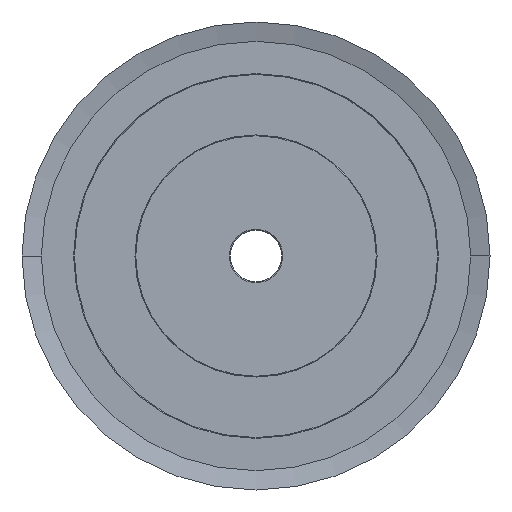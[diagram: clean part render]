
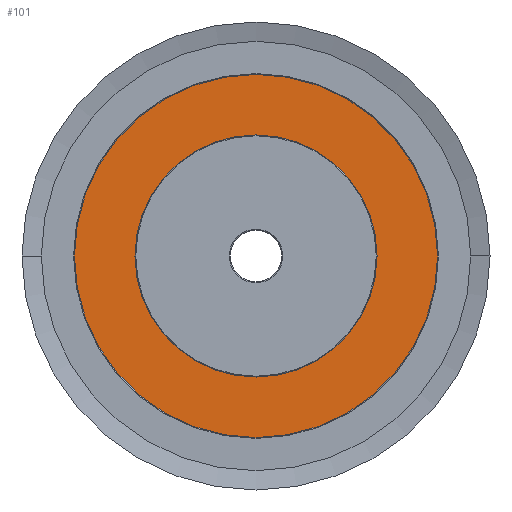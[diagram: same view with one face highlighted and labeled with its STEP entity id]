
A CAD part, left-side view. The second image highlights one B-rep face of the part: STEP entity #101.
In plain terms, the highlighted planar face has unit normal (-1, 0, 0).
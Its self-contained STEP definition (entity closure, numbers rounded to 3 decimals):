
#101=ADVANCED_FACE('',(#472,#473),#474,.T.);
#472=FACE_BOUND('',#1164,.T.);
#473=FACE_OUTER_BOUND('',#1165,.T.);
#474=PLANE('',#1166);
#1164=EDGE_LOOP('',(#1992,#1993));
#1165=EDGE_LOOP('',(#1994,#1995,#1996));
#1166=AXIS2_PLACEMENT_3D('',#1997,#1998,#1999);
#1992=ORIENTED_EDGE('',*,*,#4873,.T.);
#1993=ORIENTED_EDGE('',*,*,#4858,.T.);
#1994=ORIENTED_EDGE('',*,*,#4879,.F.);
#1995=ORIENTED_EDGE('',*,*,#4880,.F.);
#1996=ORIENTED_EDGE('',*,*,#4827,.F.);
#1997=CARTESIAN_POINT('',(56.35,0.0,0.0));
#1998=DIRECTION('',(-1.0,0.0,0.0));
#1999=DIRECTION('',(0.0,0.0,1.0));
#4827=EDGE_CURVE('',#5830,#5833,#5834,.T.);
#4858=EDGE_CURVE('',#5885,#5888,#5890,.T.);
#4873=EDGE_CURVE('',#5888,#5885,#5913,.T.);
#4879=EDGE_CURVE('',#5919,#5830,#5920,.T.);
#4880=EDGE_CURVE('',#5833,#5919,#5921,.T.);
#5830=VERTEX_POINT('',#7484);
#5833=VERTEX_POINT('',#7488);
#5834=CIRCLE('',#7489,112.5);
#5885=VERTEX_POINT('',#7553);
#5888=VERTEX_POINT('',#7557);
#5890=CIRCLE('',#7560,75.0);
#5913=CIRCLE('',#7589,75.0);
#5919=VERTEX_POINT('',#7595);
#5920=CIRCLE('',#7596,112.5);
#5921=CIRCLE('',#7597,112.5);
#7484=CARTESIAN_POINT('',(56.35,112.5,0.));
#7488=CARTESIAN_POINT('',(56.35,-112.5,0.));
#7489=AXIS2_PLACEMENT_3D('',#9453,#9454,#9455);
#7553=CARTESIAN_POINT('',(56.35,0.,-75.0));
#7557=CARTESIAN_POINT('',(56.35,0.,75.0));
#7560=AXIS2_PLACEMENT_3D('',#9516,#9517,#9518);
#7589=AXIS2_PLACEMENT_3D('',#9549,#9550,#9551);
#7595=CARTESIAN_POINT('',(56.35,0.0,-112.5));
#7596=AXIS2_PLACEMENT_3D('',#9567,#9568,#9569);
#7597=AXIS2_PLACEMENT_3D('',#9570,#9571,#9572);
#9453=CARTESIAN_POINT('',(56.35,0.0,0.0));
#9454=DIRECTION('',(1.0,0.0,0.0));
#9455=DIRECTION('',(0.0,1.0,0.0));
#9516=CARTESIAN_POINT('',(56.35,0.0,0.0));
#9517=DIRECTION('',(1.0,0.0,0.0));
#9518=DIRECTION('',(0.0,0.0,-1.0));
#9549=CARTESIAN_POINT('',(56.35,0.0,0.0));
#9550=DIRECTION('',(1.0,0.0,0.0));
#9551=DIRECTION('',(0.0,0.0,-1.0));
#9567=CARTESIAN_POINT('',(56.35,0.0,0.0));
#9568=DIRECTION('',(1.0,0.0,0.0));
#9569=DIRECTION('',(0.0,1.0,0.0));
#9570=CARTESIAN_POINT('',(56.35,0.0,0.0));
#9571=DIRECTION('',(1.0,0.0,0.0));
#9572=DIRECTION('',(0.0,1.0,0.0));
